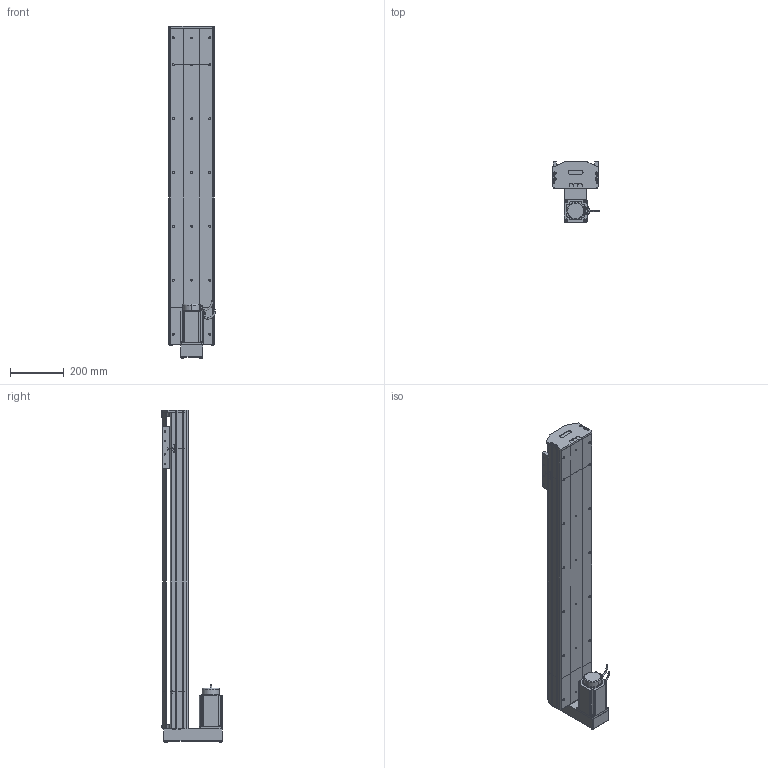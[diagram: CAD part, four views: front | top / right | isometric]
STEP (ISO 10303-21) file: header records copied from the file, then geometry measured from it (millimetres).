
FILE_DESCRIPTION (( 'STEP AP214' ), '1' );
FILE_NAME ('D17 TSH BM S900.STEP', '2010-06-30T06:48:49', ( 'Christophe Gaillard' ), ( 'SGA' ), 'SwSTEP 2.0', 'SolidWorks 2010', '' );
FILE_SCHEMA (( 'AUTOMOTIVE_DESIGN' ));
Length unit declared in the file: millimetre
Products named in the file (33): head BM_Default; vis M5 L12_Default; guide D17; Chariot D17; chariot D17S_Default; corpl head D17 BM_Default; Conecteur_Default; Conecteur2_Default; codeur 90BLDC125-640; Cvis M5 L70_Default; renvoi Bm_Default; Vis M5 L16-2_Default; corps 90BLDC125A-640; avant 90BLDC125A-640; Moteur motionking 90BLDC125A-640; vis M5 L5_Default; Arbre+rail head D17; plaque de  bout BM head D17_Default; couvercle D17 head_Default; course 900 D17_Default; D17 TSH BM S900; couvercle D17 course L900_Default; corp D17 900_Default; arbre + rail D17 Course 900 ; plaque de  bout tail D17_Default; corpl tail D17+L100_Default; Tail D17+L100_Default; Arbre+rail tail D17; tete d''axe haut D17; tete d''axe bas D17; vis M5 L25_Default; vis M5 L8 90°_Default; couvercle D17_Default
Assembly tree (55 placements, depth 4):
  D17 TSH BM S900
    chariot D17S_Default
      vis M5 L12_Default  x4
      guide D17  x2
      Chariot D17
    Tail D17+L100_Default
      vis M5 L8 90°_Default  x2
      couvercle D17_Default
      vis M5 L12_Default  x4
      tete d''axe bas D17
      plaque de  bout tail D17_Default
      corpl tail D17+L100_Default
      tete d''axe haut D17
      vis M5 L25_Default  x2
      Arbre+rail tail D17
    head BM_Default
      Moteur motionking 90BLDC125A-640
        Conecteur2_Default
        corps 90BLDC125A-640
        avant 90BLDC125A-640
        codeur 90BLDC125-640
        Conecteur_Default
      couvercle D17 head_Default
      Vis M5 L16-2_Default  x4
      Cvis M5 L70_Default  x2
      plaque de  bout BM head D17_Default
      vis M5 L12_Default  x8
      renvoi Bm_Default
      corpl head D17 BM_Default
      vis M5 L5_Default  x2
      Arbre+rail head D17
    course 900 D17_Default
      arbre + rail D17 Course 900 
      couvercle D17 course L900_Default
      corp D17 900_Default
Bounding box: 174.95 x 225.7 x 1232.7 mm (x, y, z)
Volume: 8236326.5 mm3; surface area: 2088297 mm2
Topology: 80 solids, 80 shells, 2265 faces, 5708 edges, 3682 vertices
Faces by surface type: plane 1400, cylinder 588, bspline 136, torus 73, cone 64, sphere 4
Entity records: 73322 total; most frequent: CARTESIAN_POINT 22827, ORIENTED_EDGE 8924, DIRECTION 8355, EDGE_CURVE 4462, VECTOR 3083, LINE 3083, VERTEX_POINT 2928, AXIS2_PLACEMENT_3D 2636
